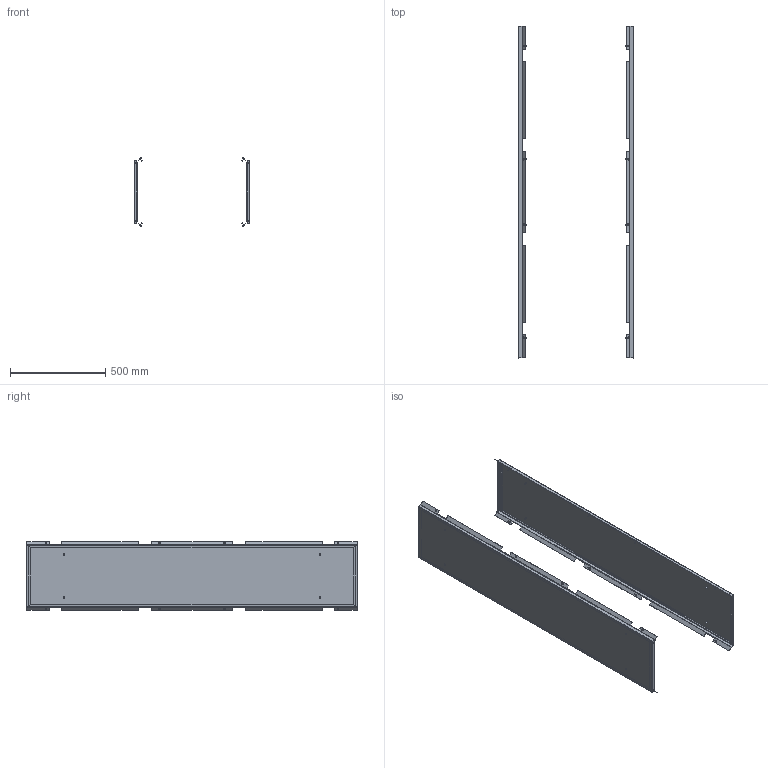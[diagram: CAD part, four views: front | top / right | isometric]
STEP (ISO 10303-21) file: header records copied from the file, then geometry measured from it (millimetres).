
FILE_DESCRIPTION (( 'STEP AP203' ), '1' );
FILE_NAME ('MA1.200.060418.20.00 AleSta-PS184 Áîêîâûå ïàíåëè AleSta 1800x400 (2 øò).STEP', '2025-02-19T14:42:55', ( '' ), ( '' ), 'SwSTEP 2.0', 'SolidWorks 2021', '' );
FILE_SCHEMA (( 'CONFIG_CONTROL_DESIGN' ));
Length unit declared in the file: millimetre
Products named in the file (6): MA1.200.060620.21.01 Ïîëîòíî ñòåíêè áîêîâîé 600õ2000_1800å400; Âèíò ñàìîíàðåçàþùèé ñ ïîòàéíîé ãîëîâêîé Ì5x16 DIN 7500 M TORX, êëàññ ïðî÷íîñòè 8.8, îöèíêîâàííàÿ ñòàëü_Œ5å16; Øïèëüêà Ì6õ12_˜¯¨«ìª  Œ6å12; Óïëîòíèòåëü ïàíåëè íèæíåé_  ‚=1800; MA1.200.060418.20.00 AleSta-PS184  Áîêîâûå ïàíåëè AleSta 1800x400 (2 øò); MA1.200.060620.21.00 Ñòåíêà áîêîâàÿ 600x2000_1800å400
Assembly tree (24 placements, depth 3):
  MA1.200.060418.20.00 AleSta-PS184  Áîêîâûå ïàíåëè AleSta 1800x400 (2 øò)
    MA1.200.060620.21.00 Ñòåíêà áîêîâàÿ 600x2000_1800å400  x2
      MA1.200.060620.21.01 Ïîëîòíî ñòåíêè áîêîâîé 600õ2000_1800å400
      Øïèëüêà Ì6õ12_˜¯¨«ìª  Œ6å12
      Óïëîòíèòåëü ïàíåëè íèæíåé_  ‚=1800
    Âèíò ñàìîíàðåçàþùèé ñ ïîòàéíîé ãîëîâêîé Ì5x16 DIN 7500 M TORX, êëàññ ïðî÷íîñòè 8.8, îöèíêîâàííàÿ ñòàëü_Œ5å16  x16
Bounding box: 606 x 1745 x 360.73 mm (x, y, z)
Volume: 1951118.9 mm3; surface area: 3134680.5 mm2
Topology: 28 solids, 28 shells, 1116 faces, 2788 edges, 1784 vertices
Faces by surface type: cylinder 636, plane 368, cone 80, bspline 16, torus 16
Entity records: 8629 total; most frequent: CARTESIAN_POINT 1714, DIRECTION 1281, ORIENTED_EDGE 1158, EDGE_CURVE 579, AXIS2_PLACEMENT_3D 475, VERTEX_POINT 360, LINE 331, VECTOR 331
